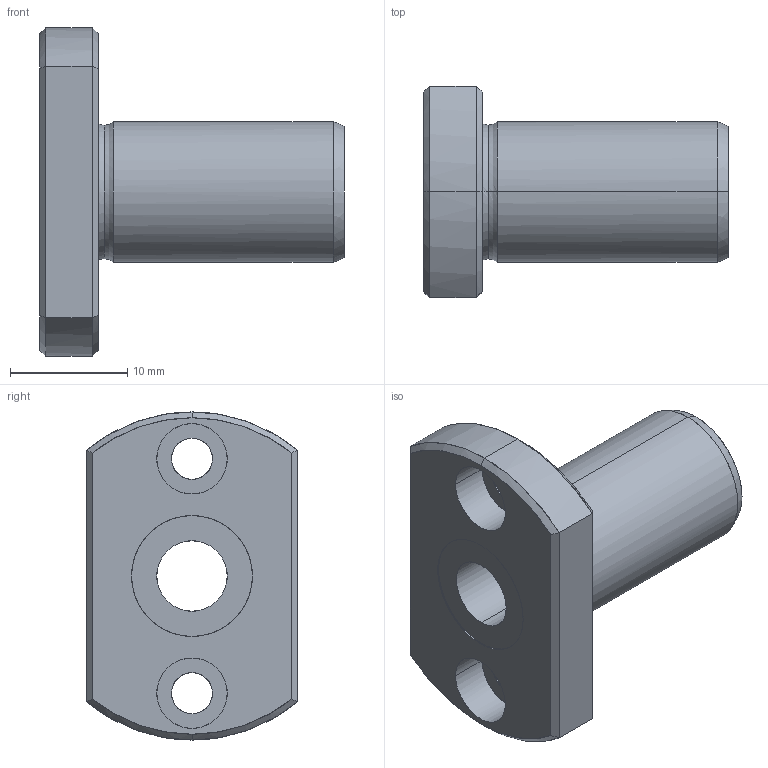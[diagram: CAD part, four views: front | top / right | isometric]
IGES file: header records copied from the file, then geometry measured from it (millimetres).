
Global section: file name: No Iges File Name specified; native system: AutoDesk Inventor R10; preprocessor: AutoDesk Inventor Iges Exporter R10; author: No Author specified; organization: No Organization specified; date: 20101216.173129; units: millimetre
Bounding box: 26 x 18 x 28 mm (x, y, z)
Surface area: 2639.4 mm2 (no closed solid volume)
Topology: 0 solids, 0 shells, 47 faces, 280 edges, 280 vertices
Faces by surface type: bspline 47
